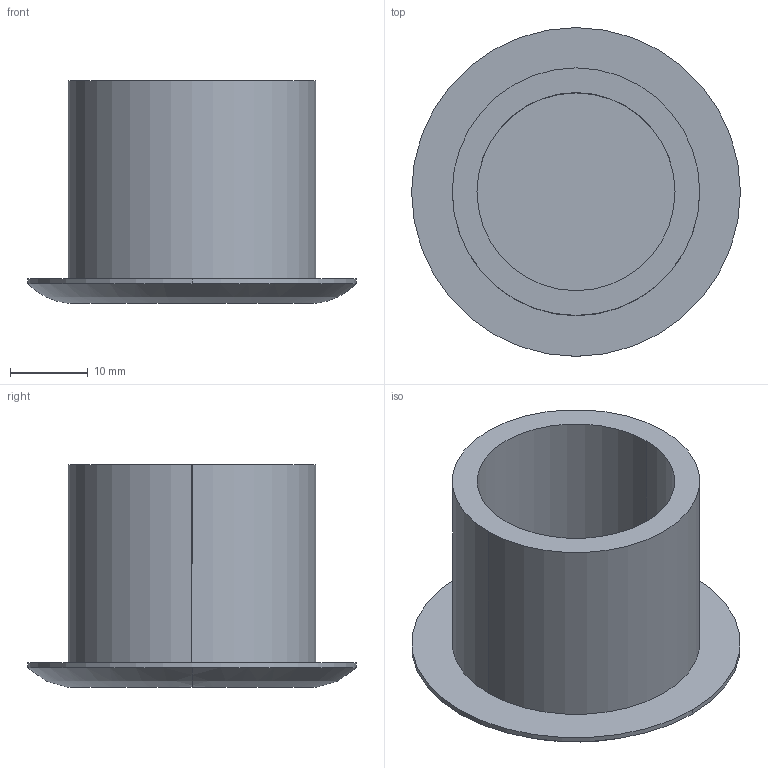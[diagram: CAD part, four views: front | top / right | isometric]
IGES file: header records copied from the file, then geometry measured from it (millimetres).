
Global section: file name: C:\Documents and Settings\Administrator\Desktop\Transfer Temp\kk77-7.igs; native system: AutoDesk Inventor R2.0 ; preprocessor: AutoDesk Inventor Iges Exporter R2.0; author: No Author specified; organization: No Organization specified; date: 20020101.142427; units: inch
Bounding box: 42.16 x 42.16 x 28.57 mm (x, y, z)
Surface area: 7523.7 mm2 (no closed solid volume)
Topology: 0 solids, 0 shells, 12 faces, 50 edges, 50 vertices
Faces by surface type: revolution 6, bspline 6
